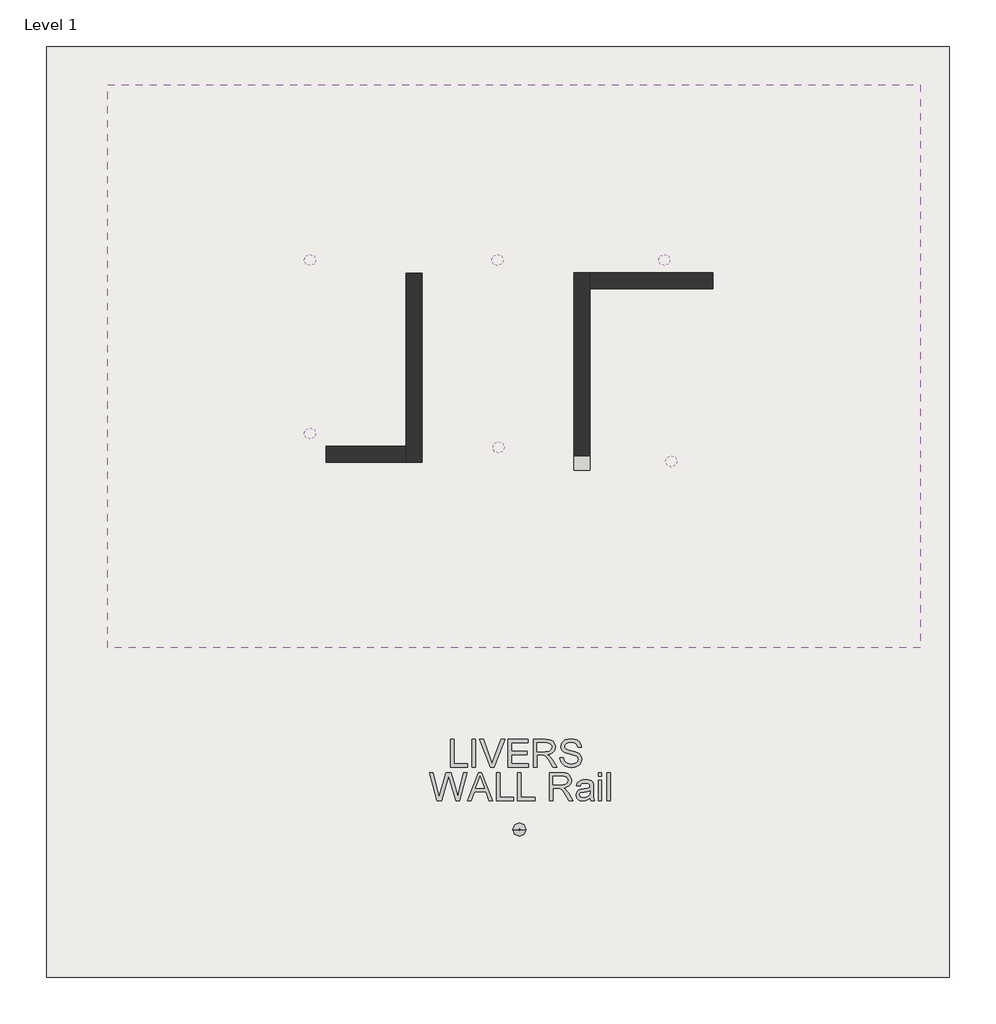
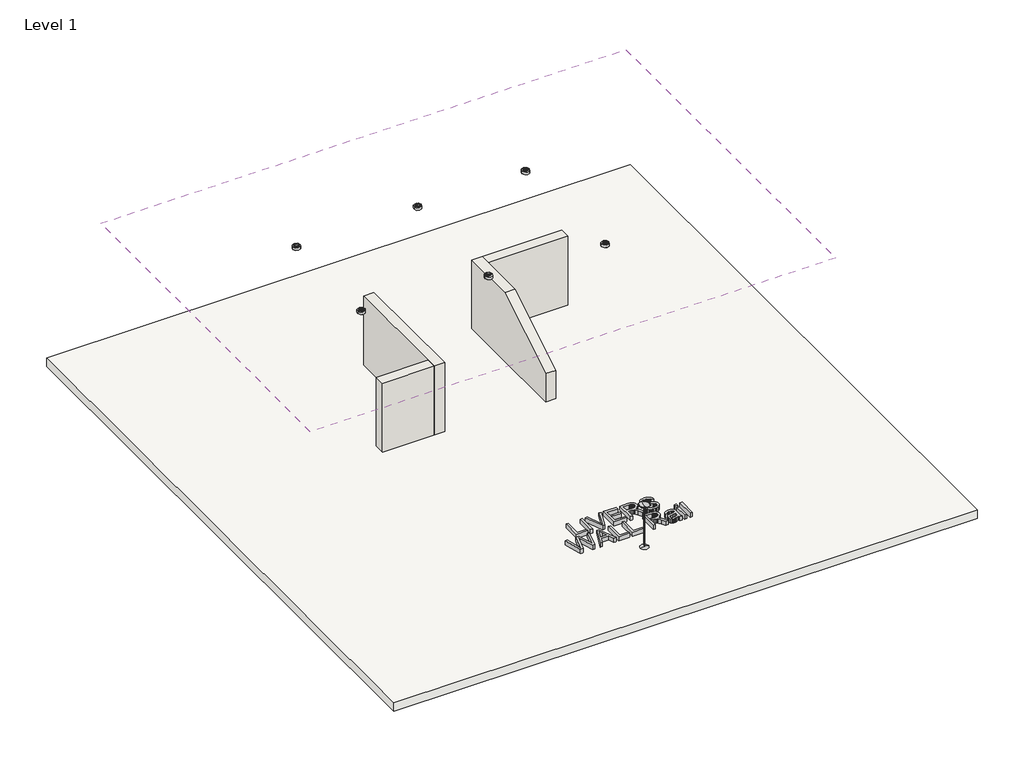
# One storey, incomplete: 7 light fixtures, 4 walls, 1 covering, 1 proxy, 1 slab.
"""IFC4 building model written with IfcOpenShell, lengths in millimetres."""

from ifc_helpers import new_model, si_unit, frame, origin, origin_with_axes, place, context, project, spatial, polyline, outline, extrude, faceted_brep, transform, mapped, element, save
from components import light_fixture_120v_8a54b260, ceiling_light_flat_round_100w_277v_0a96185f

model = new_model("IFC4")

# Units and contexts
model_context = context("Model", 3, world=origin())
ifc_project = project(units=[si_unit("LENGTHUNIT", "METRE", prefix="MILLI")], contexts=[model_context])

# Site, building, storey
site = spatial("IfcSite", under=ifc_project)
building = spatial("IfcBuilding", under=site)
storey = spatial("IfcBuildingStorey", under=building, Name="Level 1", Elevation=0.0)

# Proxy
placement = place(None, origin())
element("IfcBuildingElementProxy", 1, Name="24\" Arial", ObjectType="24\" Arial", at=placement, inside=storey, context=model_context, shape_type="SweptSolid", body=[
    extrude(outline(polyline([(441.773789, -4842.7956018), (441.773789, -4233.6614137), (517.9155625, -4233.6614137), (517.9155625, -4766.6538283), (822.4826566, -4766.6538283), (822.4826566, -4842.7956018), (441.773789, -4842.7956018)])), origin_with_axes(), (0.0, 0.0, 1.0), 152.4),
    extrude(outline(polyline([(917.6598735, -4842.7956018), (917.6598735, -4233.6614137), (993.801647, -4233.6614137), (993.801647, -4842.7956018), (917.6598735, -4842.7956018)])), origin_with_axes(), (0.0, 0.0, 1.0), 152.4),
    extrude(outline(polyline([(1326.0296197, -4842.7956018), (1083.6251454, -4233.6614137), (1165.1206374, -4233.6614137), (1327.3680493, -4672.5176122), (1360.233932, -4771.4126891), (1392.6536715, -4672.5176122), (1555.3472267, -4233.6614137), (1636.8427186, -4233.6614137), (1404.699538, -4842.7956018), (1326.0296197, -4842.7956018)])), origin_with_axes(), (0.0, 0.0, 1.0), 152.4),
    extrude(outline(polyline([(1707.6307737, -4842.7956018), (1707.6307737, -4233.6614137), (2145.4459714, -4233.6614137), (2145.4459714, -4309.8031872), (1783.7725472, -4309.8031872), (1783.7725472, -4490.6398993), (2126.410528, -4490.6398993), (2126.410528, -4566.7816728), (1783.7725472, -4566.7816728), (1783.7725472, -4766.6538283), (2154.9636931, -4766.6538283), (2154.9636931, -4842.7956018), (1707.6307737, -4842.7956018)])), origin_with_axes(), (0.0, 0.0, 1.0), 152.4),
    extrude(outline(polyline([(2269.1763534, -4842.7956018), (2269.1763534, -4233.6614137), (2531.6572719, -4233.6614137), (2602.203666, -4237.769649), (2653.5287238, -4250.094355), (2673.3356231, -4259.8909162), (2691.0419316, -4272.8476584), (2706.6476491, -4288.9645817), (2720.1527756, -4308.241686), (2731.0507529, -4329.6426178), (2738.8350223, -4352.1310237), (2743.505584, -4375.7069036), (2745.0624379, -4400.3702576), (2742.4831725, -4431.6560498), (2734.7453763, -4460.3765186), (2721.8490493, -4486.531664), (2703.7941915, -4510.1214859), (2680.3484366, -4530.3931177), (2651.2794185, -4546.5936928), (2616.587137, -4558.7232112), (2576.2715923, -4566.7816728), (2601.3671475, -4583.1774356), (2619.5474831, -4599.3501267), (2650.7403288, -4636.3428341), (2681.2639597, -4677.7226163), (2782.8358958, -4842.7956018), (2694.350827, -4842.7956018), (2615.086051, -4716.537075), (2557.8310065, -4632.9595814), (2536.5462578, -4608.5890089), (2517.6037609, -4593.4759079), (2481.3918042, -4578.9762537), (2437.223627, -4576.2993945), (2345.3181269, -4576.2993945), (2345.3181269, -4842.7956018), (2269.1763534, -4842.7956018)]), holes=[polyline([(2345.3181269, -4500.157621), (2515.7448309, -4500.157621), (2564.6904583, -4497.4621725), (2602.6683985, -4489.3758269), (2631.2587422, -4475.3594945), (2652.0415798, -4454.8740858), (2664.7008932, -4430.0945486), (2668.9206643, -4403.1958313), (2666.9083726, -4383.7235393), (2660.8714974, -4366.0544095), (2650.8100387, -4350.1884418), (2636.7239964, -4336.1256362), (2618.288058, -4324.6095648), (2595.1769106, -4316.3837994), (2567.3905541, -4311.4483403), (2534.9289887, -4309.8031872), (2345.3181269, -4309.8031872), (2345.3181269, -4500.157621)])]), origin_with_axes(), (0.0, 0.0, 1.0), 152.4),
    extrude(outline(polyline([(2849.7573764, -4633.4057246), (2925.89915, -4633.4057246), (2934.636121, -4675.6592039), (2950.4370262, -4709.6218554), (2975.0864382, -4736.5763406), (3010.36893, -4757.8053214), (3053.4961064, -4771.5799928), (3101.6795724, -4776.17155), (3144.1003554, -4772.6953508), (3181.2417772, -4762.2667534), (3211.3378542, -4745.7594549), (3232.6226029, -4724.0471523), (3245.2819163, -4699.1189008), (3249.5016874, -4672.9637554), (3246.3415064, -4647.4778249), (3236.8609633, -4625.4495042), (3217.6024483, -4606.6557217), (3185.1083516, -4590.8734058), (3074.2417654, -4561.7997404), (3001.4646552, -4542.5598147), (2954.8984582, -4524.249354), (2916.9948752, -4498.6332984), (2890.1333364, -4467.5891671), (2874.127949, -4431.7861749), (2868.7928198, -4391.8935368), (2870.4426202, -4369.2192379), (2875.3920214, -4347.2978056), (2883.6410233, -4326.1292401), (2895.1896261, -4305.7135411), (2909.9077045, -4286.8825801), (2927.6651335, -4270.468228), (2948.4619131, -4256.470485), (2972.2980432, -4244.889351), (3025.8724063, -4229.3301067), (3085.1722739, -4224.143692), (3149.4168953, -4229.5717676), (3205.630939, -4245.8559946), (3230.2245831, -4257.9855129), (3251.8067606, -4272.6617654), (3270.3774715, -4289.884752), (3285.9367158, -4309.6544728), (3298.3636629, -4331.3946593), (3307.5374826, -4354.5290434), (3313.4581747, -4379.057625), (3316.1257392, -4404.9804041), (3239.9839657, -4404.9804041), (3234.8904975, -4380.6841888), (3226.004812, -4359.5481545), (3213.3269093, -4341.5723012), (3196.8567893, -4326.7566289), (3176.2877287, -4315.1754949), (3151.3130039, -4306.9032564), (3121.932615, -4301.9399132), (3088.1465619, -4300.2854655), (3053.2823294, -4301.9213239), (3023.4929759, -4306.8288992), (2998.7785013, -4315.0081912), (2979.1389057, -4326.4592001), (2964.174519, -4340.2245769), (2953.4856714, -4355.3469726), (2947.0723629, -4371.8263872), (2944.9345933, -4389.6628207), (2946.4496213, -4405.008288), (2950.9947052, -4418.9223792), (2958.569845, -4431.4050943), (2969.1750408, -4442.4564332), (2985.8682323, -4452.9222092), (3012.1535028, -4463.499521), (3093.5002803, -4484.988752), (3177.4495599, -4505.3998036), (3228.235528, -4523.2083532), (3271.6415439, -4550.8320533), (3288.4230347, -4567.069807), (3301.9235139, -4584.9248298), (3312.3009907, -4604.3041752), (3319.7134742, -4625.1148968), (3325.6434609, -4671.0304682), (3323.9378926, -4694.848009), (3318.8211878, -4717.9684511), (3310.2933463, -4740.3917945), (3298.3543683, -4762.118039), (3283.2133833, -4782.306019), (3265.079521, -4800.1145686), (3243.9527813, -4815.5436877), (3219.8331643, -4828.5933765), (3193.4224161, -4838.9708533), (3165.4222827, -4846.3833367), (3104.6538605, -4852.3133235), (3065.7046293, -4850.7146437), (3030.0549988, -4845.9186042), (2997.7049692, -4837.9252052), (2968.6545404, -4826.7344465), (2942.727114, -4812.3277388), (2919.7460916, -4794.686493), (2899.7114733, -4773.8107089), (2882.6232592, -4749.7003865), (2868.8578824, -4723.1362766), (2858.7917763, -4694.8991296), (2852.424941, -4664.9889456), (2849.7573764, -4633.4057246)])), origin_with_axes(), (0.0, 0.0, 1.0), 152.4),
    extrude(outline(polyline([(151.0371342, -5574.9009305), (-15.0768521, -4965.7667423), (63.4443518, -4965.7667423), (159.8112839, -5366.1059109), (189.5541642, -5489.6875785), (221.3790461, -5380.3824935), (342.13514, -4965.7667423), (455.3067995, -4965.7667423), (543.0482963, -5266.3185476), (580.6358613, -5377.8543486), (608.3339185, -5489.6875785), (637.1845124, -5369.6750566), (734.4437309, -4965.7667423), (812.9649349, -4965.7667423), (646.7022341, -5574.9009305), (565.3554565, -5574.9009305), (419.3179144, -5104.9634221), (398.9440414, -5039.380371), (376.0420236, -5118.3477182), (242.9426343, -5574.9009305), (151.0371342, -5574.9009305)])), origin_with_axes(), (0.0, 0.0, 1.0), 152.4),
    extrude(outline(polyline([(818.1699389, -5574.9009305), (1061.3179852, -4965.7667423), (1126.1574642, -4965.7667423), (1369.3055105, -5574.9009305), (1288.8510193, -5574.9009305), (1219.1039651, -5384.5464967), (968.2227699, -5384.5464967), (898.6244301, -5574.9009305), (818.1699389, -5574.9009305)]), holes=[polyline([(996.1810774, -5308.4047232), (1191.294372, -5308.4047232), (1136.4187579, -5158.649321), (1093.7377247, -5041.9085159), (1055.8155524, -5145.5624536), (996.1810774, -5308.4047232)])]), origin_with_axes(), (0.0, 0.0, 1.0), 152.4),
    extrude(outline(polyline([(1450.6522881, -5574.9009305), (1450.6522881, -4965.7667423), (1526.7940616, -4965.7667423), (1526.7940616, -5498.759157), (1831.3611557, -5498.759157), (1831.3611557, -5574.9009305), (1450.6522881, -5574.9009305)])), origin_with_axes(), (0.0, 0.0, 1.0), 152.4),
    extrude(outline(polyline([(1917.0206509, -5574.9009305), (1917.0206509, -4965.7667423), (1993.1624244, -4965.7667423), (1993.1624244, -5498.759157), (2297.7295185, -5498.759157), (2297.7295185, -5574.9009305), (1917.0206509, -5574.9009305)])), origin_with_axes(), (0.0, 0.0, 1.0), 152.4),
    extrude(outline(polyline([(2621.3320559, -5574.9009305), (2621.3320559, -4965.7667423), (2883.8129744, -4965.7667423), (2954.3593685, -4969.8749777), (3005.6844263, -4982.1996837), (3025.4913257, -4991.9962449), (3043.1976341, -5004.9529871), (3058.8033516, -5021.0699104), (3072.3084781, -5040.3470147), (3083.2064554, -5061.7479465), (3090.9907248, -5084.2363524), (3095.6612865, -5107.8122323), (3097.2181404, -5132.4755863), (3094.638875, -5163.7613785), (3086.9010788, -5192.4818473), (3074.0047518, -5218.6369926), (3055.949894, -5242.2268146), (3032.5041391, -5262.4984464), (3003.435121, -5278.6990215), (2968.7428395, -5290.8285399), (2928.4272948, -5298.8870015), (2953.52285, -5315.2827642), (2971.7031856, -5331.4554554), (3002.8960313, -5368.4481627), (3033.4196622, -5409.8279449), (3134.9915983, -5574.9009305), (3046.5065295, -5574.9009305), (2967.2417536, -5448.6424037), (2909.986709, -5365.0649101), (2888.7019603, -5340.6943376), (2869.7594634, -5325.5812365), (2833.5475067, -5311.0815824), (2789.3793295, -5308.4047232), (2697.4738294, -5308.4047232), (2697.4738294, -5574.9009305), (2621.3320559, -5574.9009305)]), holes=[polyline([(2697.4738294, -5232.2629497), (2867.9005334, -5232.2629497), (2916.8461608, -5229.5675011), (2954.824101, -5221.4811556), (2983.4144447, -5207.4648232), (3004.1972823, -5186.9794144), (3016.8565957, -5162.1998773), (3021.0763669, -5135.3011599), (3019.0640751, -5115.828868), (3013.0271999, -5098.1597382), (3002.9657412, -5082.2937705), (2988.879699, -5068.2309649), (2970.4437605, -5056.7148935), (2947.3326131, -5048.4891281), (2919.5462566, -5043.5536689), (2887.0846912, -5041.9085159), (2697.4738294, -5041.9085159), (2697.4738294, -5232.2629497)])]), origin_with_axes(), (0.0, 0.0, 1.0), 152.4),
    extrude(outline(polyline([(3506.480173, -5517.7946003), (3470.1009126, -5548.987446), (3432.6434727, -5569.3984976), (3393.2527457, -5580.6636135), (3351.0736236, -5584.4186522), (3317.1713874, -5582.1600522), (3287.4424491, -5575.3842523), (3261.8868087, -5564.0912524), (3240.5044661, -5548.2810526), (3223.6207342, -5528.9574751), (3211.5609258, -5507.124342), (3204.3250407, -5482.7816535), (3201.913079, -5455.9294094), (3205.5565818, -5424.3647777), (3216.4870903, -5395.7000768), (3233.3475856, -5371.1622006), (3254.7810487, -5351.9780428), (3279.9695504, -5337.4783886), (3308.0951616, -5326.9940234), (3373.9756414, -5315.5430144), (3451.8276305, -5303.4971479), (3506.0340298, -5289.3692798), (3506.480173, -5272.415838), (3501.2379904, -5238.4345973), (3494.6852621, -5225.8496411), (3485.5114424, -5216.2017943), (3469.6547694, -5206.5725368), (3450.3404865, -5199.6944958), (3401.3390912, -5194.1920629), (3355.9811988, -5197.854155), (3324.3050313, -5208.8404314), (3302.7042645, -5229.1585365), (3287.5725742, -5260.8161147), (3211.4308007, -5251.298393), (3224.6477931, -5209.6583606), (3244.3710406, -5176.9411923), (3272.4408838, -5151.9199943), (3310.6976636, -5133.3678727), (3357.4869321, -5121.8796852), (3411.1542417, -5118.0502894), (3462.6280139, -5121.433542), (3503.4315278, -5131.5832999), (3534.1968196, -5146.8451154), (3555.5559255, -5165.5645406), (3569.7209722, -5188.7082193), (3578.9040865, -5217.2427951), (3582.6219466, -5283.8668469), (3582.6219466, -5378.5979206), (3586.488521, -5510.8793807), (3592.2140254, -5543.5779597), (3601.6573899, -5574.9009305), (3525.5156164, -5574.9009305), (3513.3210355, -5548.429767), (3506.480173, -5517.7946003)]), holes=[polyline([(3506.480173, -5365.5110533), (3455.322419, -5378.188956), (3383.6420775, -5388.8592143), (3318.1333837, -5401.2025096), (3301.0869954, -5409.6420519), (3288.4648606, -5421.2789538), (3280.6573545, -5435.220929), (3278.0548525, -5450.5756909), (3283.724589, -5473.2174585), (3300.7337987, -5491.7695801), (3328.7106955, -5504.150054), (3367.2834933, -5508.2768787), (3408.1799537, -5503.7225001), (3444.3175532, -5490.0593645), (3473.6142903, -5469.9271524), (3493.9881633, -5445.9655445), (3503.0225632, -5421.2789538), (3506.0340298, -5387.0746415), (3506.480173, -5365.5110533)])]), origin_with_axes(), (0.0, 0.0, 1.0), 152.4),
    extrude(outline(polyline([(3687.3168851, -5041.9085159), (3687.3168851, -4965.7667423), (3763.4586587, -4965.7667423), (3763.4586587, -5041.9085159), (3687.3168851, -5041.9085159)])), origin_with_axes(), (0.0, 0.0, 1.0), 152.4),
    extrude(outline(polyline([(3687.3168851, -5574.9009305), (3687.3168851, -5127.5680111), (3763.4586587, -5127.5680111), (3763.4586587, -5574.9009305), (3687.3168851, -5574.9009305)])), origin_with_axes(), (0.0, 0.0, 1.0), 152.4),
    extrude(outline(polyline([(3877.6713189, -5574.9009305), (3877.6713189, -4965.7667423), (3953.8130924, -4965.7667423), (3953.8130924, -5574.9009305), (3877.6713189, -5574.9009305)])), origin_with_axes(), (0.0, 0.0, 1.0), 152.4),
])

# Covering
element("IfcCovering", 2, ObjectType="GWB on Mtl. Stud", at=placement, inside=storey, context=model_context, shape_type="SweptSolid", body=[
    extrude(outline(polyline([(10755.3897385, 10121.3807879), (10755.3897385, -2223.0192121), (-7075.4102615, -2223.0192121), (-7075.4102615, 10121.3807879), (10755.3897385, 10121.3807879)])), frame((0.0, 0.0, 4876.8), z_axis=(0.0, 0.0, 1.0), x_axis=(1.0, 0.0, 0.0)), (0.0, 0.0, 1.0), 107.95),
])

# Light fixtures
light_fixture_120v_shape = light_fixture_120v_8a54b260(model_context)
element("IfcLightFixture", 3, ObjectType="Floor Lamp - Torchiere : 120V", at=placement, inside=storey, context=model_context, shape_type="MappedRepresentation", body=[
    mapped(light_fixture_120v_shape, transform((1956.9926516, -6211.8188399, 0.0), x_axis=(1.0, 0.0, 0.0), y_axis=(0.0, 1.0, 0.0), z_axis=(0.0, 0.0, 1.0))),
])
ceiling_light_flat_round_100w_277v_shape = ceiling_light_flat_round_100w_277v_0a96185f(model_context)
element("IfcLightFixture", 4, ObjectType="Ceiling Light - Flat Round : 100W - 277V", at=placement, inside=storey, context=model_context, shape_type="MappedRepresentation", body=[
    mapped(ceiling_light_flat_round_100w_277v_shape, transform((-2638.8317246, 6281.0598139, 2438.4), x_axis=(1.0, 0.0, 0.0), y_axis=(0.0, 1.0, 0.0), z_axis=(0.0, 0.0, 1.0))),
])
element("IfcLightFixture", 5, ObjectType="Ceiling Light - Flat Round : 100W - 277V", at=placement, inside=storey, context=model_context, shape_type="MappedRepresentation", body=[
    mapped(ceiling_light_flat_round_100w_277v_shape, transform((-2638.8317246, 2474.9811601, 2438.4), x_axis=(1.0, 0.0, 0.0), y_axis=(0.0, 1.0, 0.0), z_axis=(0.0, 0.0, 1.0))),
])
element("IfcLightFixture", 6, ObjectType="Ceiling Light - Flat Round : 100W - 277V", at=placement, inside=storey, context=model_context, shape_type="MappedRepresentation", body=[
    mapped(ceiling_light_flat_round_100w_277v_shape, transform((1499.7926516, 2170.1811601, 2438.4), x_axis=(1.0, 0.0, 0.0), y_axis=(0.0, 1.0, 0.0), z_axis=(0.0, 0.0, 1.0))),
])
element("IfcLightFixture", 7, ObjectType="Ceiling Light - Flat Round : 100W - 277V", at=placement, inside=storey, context=model_context, shape_type="MappedRepresentation", body=[
    mapped(ceiling_light_flat_round_100w_277v_shape, transform((1475.9682754, 6281.0598139, 2438.4), x_axis=(1.0, 0.0, 0.0), y_axis=(0.0, 1.0, 0.0), z_axis=(0.0, 0.0, 1.0))),
])
element("IfcLightFixture", 8, ObjectType="Ceiling Light - Flat Round : 100W - 277V", at=placement, inside=storey, context=model_context, shape_type="MappedRepresentation", body=[
    mapped(ceiling_light_flat_round_100w_277v_shape, transform((5290.6356556, 1865.3811601, 2438.4), x_axis=(1.0, 0.0, 0.0), y_axis=(0.0, 1.0, 0.0), z_axis=(0.0, 0.0, 1.0))),
])
element("IfcLightFixture", 9, ObjectType="Ceiling Light - Flat Round : 100W - 277V", at=placement, inside=storey, context=model_context, shape_type="MappedRepresentation", body=[
    mapped(ceiling_light_flat_round_100w_277v_shape, transform((5138.2356556, 6281.0598139, 2438.4), x_axis=(1.0, 0.0, 0.0), y_axis=(0.0, 1.0, 0.0), z_axis=(0.0, 0.0, 1.0))),
])

# Slab
element("IfcSlab", 10, ObjectType="WOOD", at=placement, inside=storey, context=model_context, shape_type="SweptSolid", body=[
    extrude(outline(polyline([(11390.3968218, 10964.8849988), (11390.3968218, -9456.7150012), (-8421.6031782, -9456.7150012), (-8421.6031782, 10964.8849988), (11390.3968218, 10964.8849988)])), frame((0.0, 0.0, -304.8), z_axis=(0.0, 0.0, 1.0), x_axis=(1.0, 0.0, 0.0)), (0.0, 0.0, 1.0), 304.8),
])

# Walls
element("IfcWall", 11, ObjectType="Exterior - Brick on Mtl. Stud", at=placement, inside=storey, context=model_context, shape_type="Brep", body=[
    faceted_brep([(3152.3801516, 6000.0723139, 0.0), (3152.3801516, 1672.5473139, 0.0), (3152.3801516, 1672.5473139, 1018.0491841), (3152.3801516, 4080.3656718, 2477.3330374), (3152.3801516, 6000.0723139, 2477.3330374), (3504.8051516, 6000.0723139, 0.0), (3504.8051516, 6000.0723139, 2477.3330374), (3504.8051516, 5647.6473139, 2477.3330374), (3504.8051516, 4080.3656718, 2477.3330374), (3504.8051516, 1672.5473139, 1018.0491841), (3504.8051516, 1672.5473139, 0.0), (3504.8051516, 5647.6473139, 0.0)], [[[0, 1, 2, 3, 4]], [[5, 6, 7, 8, 9, 10, 11]], [[0, 4, 6, 5]], [[1, 0, 5, 11, 10]], [[2, 1, 10, 9]], [[4, 3, 8, 7, 6]], [[3, 2, 9, 8]]]),
])
element("IfcWall", 12, ObjectType="Exterior - Brick on Mtl. Stud", at=placement, inside=storey, context=model_context, shape_type="SweptSolid", body=[
    extrude(outline(polyline([(3504.8051516, 6000.0723139), (6205.0356556, 6000.0723139), (6205.0356556, 5647.6473139), (3504.8051516, 5647.6473139), (3504.8051516, 6000.0723139)])), origin_with_axes(), (0.0, 0.0, 1.0), 2477.3330374),
])
element("IfcWall", 13, ObjectType="Exterior - Brick on Mtl. Stud", at=placement, inside=storey, context=model_context, shape_type="Brep", body=[
    faceted_brep([(-176.6192246, 1841.5686601, 0.0), (-176.6192246, 5992.8811601, 0.0), (-176.6192246, 5992.8811601, 2477.3330374), (-176.6192246, 1841.5686601, 2477.3330374), (-529.0442246, 1841.5686601, 0.0), (-529.0442246, 1841.5686601, 2477.3330374), (-529.0442246, 2193.9936601, 2477.3330374), (-529.0442246, 5992.8811601, 2477.3330374), (-529.0442246, 5992.8811601, 0.0), (-529.0442246, 2193.9936601, 0.0)], [[[0, 1, 2, 3]], [[4, 5, 6, 7, 8, 9]], [[1, 0, 4, 9, 8]], [[2, 1, 8, 7]], [[3, 2, 7, 6, 5]], [[0, 3, 5, 4]]]),
])
element("IfcWall", 14, ObjectType="Exterior - Brick on Mtl. Stud", at=placement, inside=storey, context=model_context, shape_type="SweptSolid", body=[
    extrude(outline(polyline([(-2284.8192246, 2193.9936601), (-529.0442246, 2193.9936601), (-529.0442246, 1841.5686601), (-2284.8192246, 1841.5686601), (-2284.8192246, 2193.9936601)])), origin_with_axes(), (0.0, 0.0, 1.0), 2477.3330374),
])

save(model, "model.ifc")
